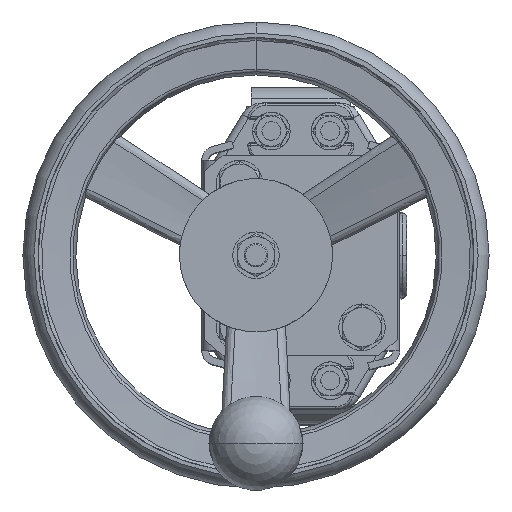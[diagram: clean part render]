
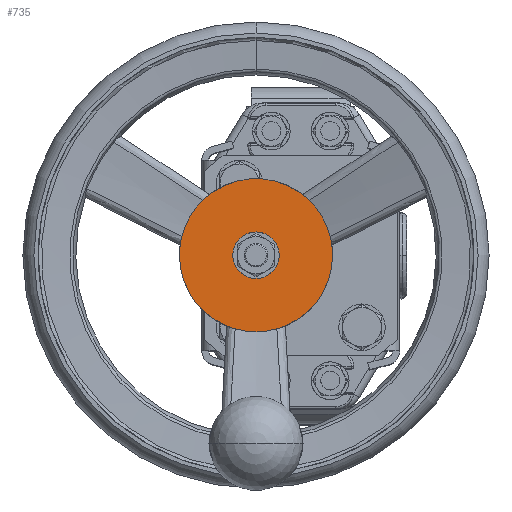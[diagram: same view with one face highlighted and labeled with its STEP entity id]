
A CAD part, top view. The second image highlights one B-rep face of the part: STEP entity #735.
In plain terms, the highlighted planar face has unit normal (0, 0, 1).
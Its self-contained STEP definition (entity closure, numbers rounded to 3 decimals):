
#735=ADVANCED_FACE('',(#2338,#2339),#2340,.T.);
#2338=FACE_OUTER_BOUND('',#4933,.T.);
#2339=FACE_BOUND('',#4934,.T.);
#2340=PLANE('',#4935);
#4933=EDGE_LOOP('',(#12629,#12630,#12631,#12632,#12633,#12634,#12635,#12636));
#4934=EDGE_LOOP('',(#12637,#12638));
#4935=AXIS2_PLACEMENT_3D('',#12639,#12640,#12641);
#12629=ORIENTED_EDGE('',*,*,#20785,.F.);
#12630=ORIENTED_EDGE('',*,*,#20786,.T.);
#12631=ORIENTED_EDGE('',*,*,#20413,.T.);
#12632=ORIENTED_EDGE('',*,*,#20787,.F.);
#12633=ORIENTED_EDGE('',*,*,#20788,.T.);
#12634=ORIENTED_EDGE('',*,*,#20789,.F.);
#12635=ORIENTED_EDGE('',*,*,#20511,.T.);
#12636=ORIENTED_EDGE('',*,*,#20784,.T.);
#12637=ORIENTED_EDGE('',*,*,#20324,.F.);
#12638=ORIENTED_EDGE('',*,*,#20790,.F.);
#12639=CARTESIAN_POINT('',(-19.,-32.5,328.));
#12640=DIRECTION('',(0.,0.,1.));
#12641=DIRECTION('',(-1.,0.,0.));
#20324=EDGE_CURVE('',#24431,#24427,#24433,.T.);
#20413=EDGE_CURVE('',#24594,#24600,#24602,.T.);
#20511=EDGE_CURVE('',#24777,#24775,#24778,.T.);
#20784=EDGE_CURVE('',#24775,#25237,#25239,.T.);
#20785=EDGE_CURVE('',#25240,#25237,#25241,.T.);
#20786=EDGE_CURVE('',#25240,#24594,#25242,.T.);
#20787=EDGE_CURVE('',#25243,#24600,#25244,.T.);
#20788=EDGE_CURVE('',#25243,#25245,#25246,.T.);
#20789=EDGE_CURVE('',#24777,#25245,#25247,.T.);
#20790=EDGE_CURVE('',#24427,#24431,#25248,.T.);
#24427=VERTEX_POINT('',#30237);
#24431=VERTEX_POINT('',#30242);
#24433=CIRCLE('',#30245,9.87);
#24594=VERTEX_POINT('',#30475);
#24600=VERTEX_POINT('',#30499);
#24602=CIRCLE('',#30518,32.5);
#24775=VERTEX_POINT('',#31051);
#24777=VERTEX_POINT('',#31054);
#24778=CIRCLE('',#31055,32.5);
#25237=VERTEX_POINT('',#32058);
#25239=CIRCLE('',#32077,32.5);
#25240=VERTEX_POINT('',#32078);
#25241=CIRCLE('',#32079,32.5);
#25242=CIRCLE('',#32080,32.5);
#25243=VERTEX_POINT('',#32081);
#25244=CIRCLE('',#32082,32.5);
#25245=VERTEX_POINT('',#32083);
#25246=CIRCLE('',#32084,32.5);
#25247=CIRCLE('',#32085,32.5);
#25248=CIRCLE('',#32086,9.87);
#30237=CARTESIAN_POINT('',(-28.87,0.,328.));
#30242=CARTESIAN_POINT('',(-9.13,0.,328.));
#30245=AXIS2_PLACEMENT_3D('',#39611,#39612,#39613);
#30475=CARTESIAN_POINT('',(13.5,0.,328.));
#30499=CARTESIAN_POINT('',(12.508,7.968,328.));
#30518=AXIS2_PLACEMENT_3D('',#39781,#39782,#39783);
#31051=CARTESIAN_POINT('',(-51.5,0.,328.));
#31054=CARTESIAN_POINT('',(-50.508,7.968,328.));
#31055=AXIS2_PLACEMENT_3D('',#39937,#39938,#39939);
#32058=CARTESIAN_POINT('',(-27.853,-31.271,328.));
#32077=AXIS2_PLACEMENT_3D('',#40378,#40379,#40380);
#32078=CARTESIAN_POINT('',(-10.147,-31.271,328.));
#32079=AXIS2_PLACEMENT_3D('',#40381,#40382,#40383);
#32080=AXIS2_PLACEMENT_3D('',#40384,#40385,#40386);
#32081=CARTESIAN_POINT('',(3.655,23.303,328.));
#32082=AXIS2_PLACEMENT_3D('',#40387,#40388,#40389);
#32083=CARTESIAN_POINT('',(-41.655,23.303,328.));
#32084=AXIS2_PLACEMENT_3D('',#40390,#40391,#40392);
#32085=AXIS2_PLACEMENT_3D('',#40393,#40394,#40395);
#32086=AXIS2_PLACEMENT_3D('',#40396,#40397,#40398);
#39611=CARTESIAN_POINT('',(-19.,0.,328.));
#39612=DIRECTION('',(0.,0.,1.));
#39613=DIRECTION('',(1.,0.,0.));
#39781=CARTESIAN_POINT('',(-19.,0.,328.));
#39782=DIRECTION('',(0.,0.,1.));
#39783=DIRECTION('',(-1.,0.,0.));
#39937=CARTESIAN_POINT('',(-19.,0.,328.));
#39938=DIRECTION('',(0.,0.,1.));
#39939=DIRECTION('',(-1.,0.,0.));
#40378=CARTESIAN_POINT('',(-19.,0.,328.));
#40379=DIRECTION('',(0.,0.,1.));
#40380=DIRECTION('',(-1.,0.,0.));
#40381=CARTESIAN_POINT('',(-19.,0.,328.));
#40382=DIRECTION('',(0.,0.,-1.));
#40383=DIRECTION('',(1.,0.,0.));
#40384=CARTESIAN_POINT('',(-19.,0.,328.));
#40385=DIRECTION('',(0.,0.,1.));
#40386=DIRECTION('',(-1.,0.,0.));
#40387=CARTESIAN_POINT('',(-19.,0.,328.));
#40388=DIRECTION('',(0.,0.,-1.));
#40389=DIRECTION('',(1.,0.,0.));
#40390=CARTESIAN_POINT('',(-19.,0.,328.));
#40391=DIRECTION('',(0.,0.,1.));
#40392=DIRECTION('',(-1.,0.,0.));
#40393=CARTESIAN_POINT('',(-19.,0.,328.));
#40394=DIRECTION('',(0.,0.,-1.));
#40395=DIRECTION('',(1.,0.,0.));
#40396=CARTESIAN_POINT('',(-19.,0.,328.));
#40397=DIRECTION('',(0.,0.,1.));
#40398=DIRECTION('',(1.,0.,0.));
